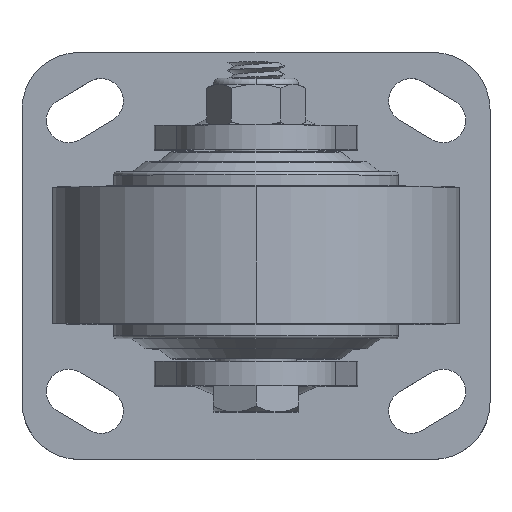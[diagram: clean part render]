
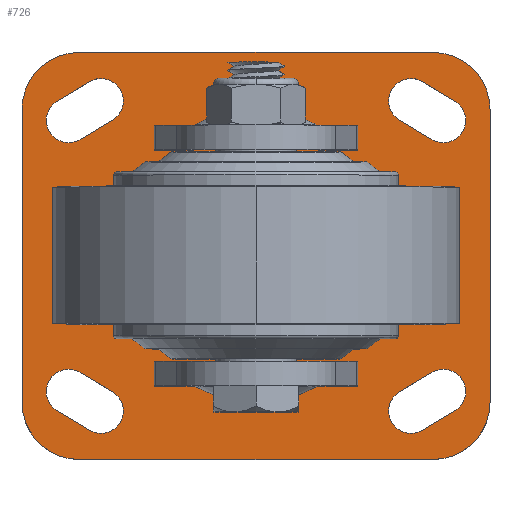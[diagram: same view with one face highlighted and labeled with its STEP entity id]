
A CAD part, top view. The second image highlights one B-rep face of the part: STEP entity #726.
In plain terms, the highlighted planar face has unit normal (0, 0, 1).
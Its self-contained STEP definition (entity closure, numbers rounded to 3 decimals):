
#164=DIRECTION('',(-1.,0.,0.));
#165=VECTOR('',#164,87.);
#166=CARTESIAN_POINT('',(43.5,50.,8.));
#167=LINE('',#166,#165);
#168=CARTESIAN_POINT('',(43.5,36.,8.));
#169=DIRECTION('',(0.,0.,1.));
#170=DIRECTION('',(1.,0.,0.));
#171=AXIS2_PLACEMENT_3D('',#168,#169,#170);
#173=DIRECTION('',(0.,1.,0.));
#174=VECTOR('',#173,72.);
#175=CARTESIAN_POINT('',(57.5,-36.,8.));
#176=LINE('',#175,#174);
#177=CARTESIAN_POINT('',(43.5,-36.,8.));
#178=DIRECTION('',(0.,0.,1.));
#179=DIRECTION('',(0.,-1.,0.));
#180=AXIS2_PLACEMENT_3D('',#177,#178,#179);
#182=DIRECTION('',(1.,0.,0.));
#183=VECTOR('',#182,87.);
#184=CARTESIAN_POINT('',(-43.5,-50.,8.));
#185=LINE('',#184,#183);
#186=CARTESIAN_POINT('',(-43.5,-36.,8.));
#187=DIRECTION('',(0.,0.,1.));
#188=DIRECTION('',(-1.,0.,0.));
#189=AXIS2_PLACEMENT_3D('',#186,#187,#188);
#191=DIRECTION('',(0.,-1.,0.));
#192=VECTOR('',#191,72.);
#193=CARTESIAN_POINT('',(-57.5,36.,8.));
#194=LINE('',#193,#192);
#195=CARTESIAN_POINT('',(-43.5,36.,8.));
#196=DIRECTION('',(0.,0.,1.));
#197=DIRECTION('',(0.,1.,0.));
#198=AXIS2_PLACEMENT_3D('',#195,#196,#197);
#200=CARTESIAN_POINT('',(46.038,33.338,8.));
#201=DIRECTION('',(0.,0.,-1.));
#202=DIRECTION('',(0.514,0.857,0.));
#203=AXIS2_PLACEMENT_3D('',#200,#201,#202);
#205=DIRECTION('',(0.857,-0.514,0.));
#206=VECTOR('',#205,9.257);
#207=CARTESIAN_POINT('',(40.93,42.816,8.));
#208=LINE('',#207,#206);
#209=CARTESIAN_POINT('',(38.1,38.1,8.));
#210=DIRECTION('',(0.,0.,-1.));
#211=DIRECTION('',(-0.514,-0.857,0.));
#212=AXIS2_PLACEMENT_3D('',#209,#210,#211);
#214=DIRECTION('',(-0.857,0.514,0.));
#215=VECTOR('',#214,9.257);
#216=CARTESIAN_POINT('',(43.208,28.621,8.));
#217=LINE('',#216,#215);
#218=DIRECTION('',(0.857,0.514,0.));
#219=VECTOR('',#218,9.257);
#220=CARTESIAN_POINT('',(-48.867,38.054,8.));
#221=LINE('',#220,#219);
#222=CARTESIAN_POINT('',(-46.038,33.338,8.));
#223=DIRECTION('',(0.,0.,-1.));
#224=DIRECTION('',(0.514,-0.857,0.));
#225=AXIS2_PLACEMENT_3D('',#222,#223,#224);
#227=DIRECTION('',(-0.857,-0.514,0.));
#228=VECTOR('',#227,9.257);
#229=CARTESIAN_POINT('',(-35.27,33.384,8.));
#230=LINE('',#229,#228);
#231=CARTESIAN_POINT('',(-38.1,38.1,8.));
#232=DIRECTION('',(0.,0.,-1.));
#233=DIRECTION('',(-0.514,0.857,0.));
#234=AXIS2_PLACEMENT_3D('',#231,#232,#233);
#236=DIRECTION('',(-0.857,0.514,0.));
#237=VECTOR('',#236,9.257);
#238=CARTESIAN_POINT('',(-40.93,-42.816,8.));
#239=LINE('',#238,#237);
#240=CARTESIAN_POINT('',(-38.1,-38.1,8.));
#241=DIRECTION('',(0.,0.,-1.));
#242=DIRECTION('',(0.514,0.857,0.));
#243=AXIS2_PLACEMENT_3D('',#240,#241,#242);
#245=DIRECTION('',(0.857,-0.514,0.));
#246=VECTOR('',#245,9.257);
#247=CARTESIAN_POINT('',(-43.208,-28.621,8.));
#248=LINE('',#247,#246);
#249=CARTESIAN_POINT('',(-46.038,-33.338,8.));
#250=DIRECTION('',(0.,0.,-1.));
#251=DIRECTION('',(-0.514,-0.857,0.));
#252=AXIS2_PLACEMENT_3D('',#249,#250,#251);
#254=DIRECTION('',(0.857,0.514,0.));
#255=VECTOR('',#254,9.257);
#256=CARTESIAN_POINT('',(35.27,-33.384,8.));
#257=LINE('',#256,#255);
#258=CARTESIAN_POINT('',(38.1,-38.1,8.));
#259=DIRECTION('',(0.,0.,-1.));
#260=DIRECTION('',(0.514,-0.857,0.));
#261=AXIS2_PLACEMENT_3D('',#258,#259,#260);
#263=DIRECTION('',(-0.857,-0.514,0.));
#264=VECTOR('',#263,9.257);
#265=CARTESIAN_POINT('',(48.867,-38.054,8.));
#266=LINE('',#265,#264);
#267=CARTESIAN_POINT('',(46.038,-33.338,8.));
#268=DIRECTION('',(0.,0.,-1.));
#269=DIRECTION('',(-0.514,0.857,0.));
#270=AXIS2_PLACEMENT_3D('',#267,#268,#269);
#384=CARTESIAN_POINT('',(43.5,50.,8.));
#385=CARTESIAN_POINT('',(-43.5,50.,8.));
#386=VERTEX_POINT('',#384);
#387=VERTEX_POINT('',#385);
#388=CARTESIAN_POINT('',(-57.5,36.,8.));
#389=VERTEX_POINT('',#388);
#390=CARTESIAN_POINT('',(-57.5,-36.,8.));
#391=VERTEX_POINT('',#390);
#392=CARTESIAN_POINT('',(-43.5,-50.,8.));
#393=VERTEX_POINT('',#392);
#394=CARTESIAN_POINT('',(43.5,-50.,8.));
#395=VERTEX_POINT('',#394);
#396=CARTESIAN_POINT('',(57.5,-36.,8.));
#397=VERTEX_POINT('',#396);
#398=CARTESIAN_POINT('',(57.5,36.,8.));
#399=VERTEX_POINT('',#398);
#400=CARTESIAN_POINT('',(48.867,38.054,8.));
#401=CARTESIAN_POINT('',(43.208,28.621,8.));
#402=VERTEX_POINT('',#400);
#403=VERTEX_POINT('',#401);
#404=CARTESIAN_POINT('',(35.27,33.384,8.));
#405=VERTEX_POINT('',#404);
#406=CARTESIAN_POINT('',(40.93,42.816,8.));
#407=VERTEX_POINT('',#406);
#408=CARTESIAN_POINT('',(-48.867,38.054,8.));
#409=CARTESIAN_POINT('',(-40.93,42.816,8.));
#410=VERTEX_POINT('',#408);
#411=VERTEX_POINT('',#409);
#412=CARTESIAN_POINT('',(-35.27,33.384,8.));
#413=VERTEX_POINT('',#412);
#414=CARTESIAN_POINT('',(-43.208,28.621,8.));
#415=VERTEX_POINT('',#414);
#416=CARTESIAN_POINT('',(-40.93,-42.816,8.));
#417=CARTESIAN_POINT('',(-48.867,-38.054,8.));
#418=VERTEX_POINT('',#416);
#419=VERTEX_POINT('',#417);
#420=CARTESIAN_POINT('',(-43.208,-28.621,8.));
#421=VERTEX_POINT('',#420);
#422=CARTESIAN_POINT('',(-35.27,-33.384,8.));
#423=VERTEX_POINT('',#422);
#424=CARTESIAN_POINT('',(35.27,-33.384,8.));
#425=CARTESIAN_POINT('',(43.208,-28.621,8.));
#426=VERTEX_POINT('',#424);
#427=VERTEX_POINT('',#425);
#428=CARTESIAN_POINT('',(48.867,-38.054,8.));
#429=VERTEX_POINT('',#428);
#430=CARTESIAN_POINT('',(40.93,-42.816,8.));
#431=VERTEX_POINT('',#430);
#671=CARTESIAN_POINT('',(0.,0.,8.));
#672=DIRECTION('',(0.,0.,1.));
#673=DIRECTION('',(1.,0.,0.));
#674=AXIS2_PLACEMENT_3D('',#671,#672,#673);
#675=PLANE('',#674);
#676=ORIENTED_EDGE('',*,*,#511,.F.);
#677=ORIENTED_EDGE('',*,*,#533,.F.);
#678=ORIENTED_EDGE('',*,*,#554,.F.);
#679=ORIENTED_EDGE('',*,*,#575,.F.);
#680=ORIENTED_EDGE('',*,*,#596,.F.);
#681=ORIENTED_EDGE('',*,*,#617,.F.);
#682=ORIENTED_EDGE('',*,*,#638,.F.);
#683=ORIENTED_EDGE('',*,*,#658,.F.);
#684=EDGE_LOOP('',(#676,#677,#678,#679,#680,#681,#682,#683));
#685=FACE_OUTER_BOUND('',#684,.F.);
#687=ORIENTED_EDGE('',*,*,#686,.F.);
#689=ORIENTED_EDGE('',*,*,#688,.F.);
#691=ORIENTED_EDGE('',*,*,#690,.F.);
#693=ORIENTED_EDGE('',*,*,#692,.F.);
#694=EDGE_LOOP('',(#687,#689,#691,#693));
#695=FACE_BOUND('',#694,.F.);
#697=ORIENTED_EDGE('',*,*,#696,.F.);
#699=ORIENTED_EDGE('',*,*,#698,.F.);
#701=ORIENTED_EDGE('',*,*,#700,.F.);
#703=ORIENTED_EDGE('',*,*,#702,.F.);
#704=EDGE_LOOP('',(#697,#699,#701,#703));
#705=FACE_BOUND('',#704,.F.);
#707=ORIENTED_EDGE('',*,*,#706,.F.);
#709=ORIENTED_EDGE('',*,*,#708,.F.);
#711=ORIENTED_EDGE('',*,*,#710,.F.);
#713=ORIENTED_EDGE('',*,*,#712,.F.);
#714=EDGE_LOOP('',(#707,#709,#711,#713));
#715=FACE_BOUND('',#714,.F.);
#717=ORIENTED_EDGE('',*,*,#716,.F.);
#719=ORIENTED_EDGE('',*,*,#718,.F.);
#721=ORIENTED_EDGE('',*,*,#720,.F.);
#723=ORIENTED_EDGE('',*,*,#722,.F.);
#724=EDGE_LOOP('',(#717,#719,#721,#723));
#725=FACE_BOUND('',#724,.F.);
#172=CIRCLE('',#171,14.);
#181=CIRCLE('',#180,14.);
#190=CIRCLE('',#189,14.);
#199=CIRCLE('',#198,14.);
#204=CIRCLE('',#203,5.5);
#213=CIRCLE('',#212,5.5);
#226=CIRCLE('',#225,5.5);
#235=CIRCLE('',#234,5.5);
#244=CIRCLE('',#243,5.5);
#253=CIRCLE('',#252,5.5);
#262=CIRCLE('',#261,5.5);
#271=CIRCLE('',#270,5.5);
#511=EDGE_CURVE('',#386,#387,#167,.T.);
#533=EDGE_CURVE('',#399,#386,#172,.T.);
#554=EDGE_CURVE('',#397,#399,#176,.T.);
#575=EDGE_CURVE('',#395,#397,#181,.T.);
#596=EDGE_CURVE('',#393,#395,#185,.T.);
#617=EDGE_CURVE('',#391,#393,#190,.T.);
#638=EDGE_CURVE('',#389,#391,#194,.T.);
#658=EDGE_CURVE('',#387,#389,#199,.T.);
#686=EDGE_CURVE('',#402,#403,#204,.T.);
#688=EDGE_CURVE('',#407,#402,#208,.T.);
#690=EDGE_CURVE('',#405,#407,#213,.T.);
#692=EDGE_CURVE('',#403,#405,#217,.T.);
#696=EDGE_CURVE('',#410,#411,#221,.T.);
#698=EDGE_CURVE('',#415,#410,#226,.T.);
#700=EDGE_CURVE('',#413,#415,#230,.T.);
#702=EDGE_CURVE('',#411,#413,#235,.T.);
#706=EDGE_CURVE('',#418,#419,#239,.T.);
#708=EDGE_CURVE('',#423,#418,#244,.T.);
#710=EDGE_CURVE('',#421,#423,#248,.T.);
#712=EDGE_CURVE('',#419,#421,#253,.T.);
#716=EDGE_CURVE('',#426,#427,#257,.T.);
#718=EDGE_CURVE('',#431,#426,#262,.T.);
#720=EDGE_CURVE('',#429,#431,#266,.T.);
#722=EDGE_CURVE('',#427,#429,#271,.T.);
#726=ADVANCED_FACE('',(#685,#695,#705,#715,#725),#675,.T.);
